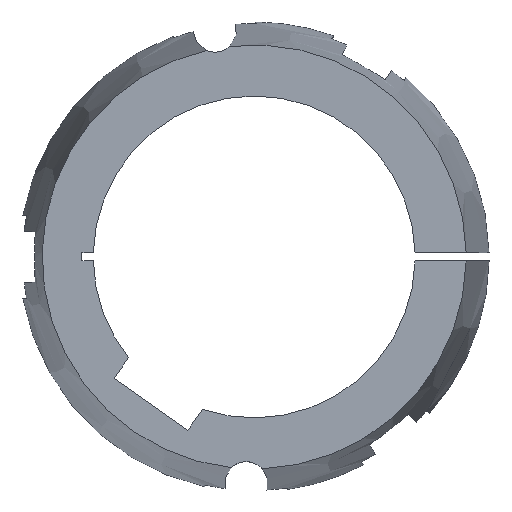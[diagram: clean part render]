
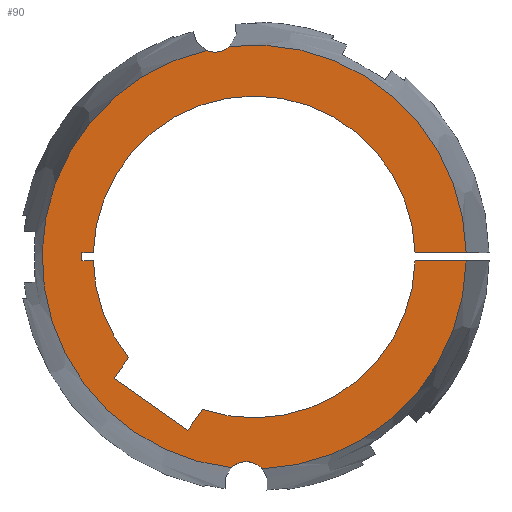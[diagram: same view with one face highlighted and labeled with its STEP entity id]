
A CAD part, left-side view. The second image highlights one B-rep face of the part: STEP entity #90.
In plain terms, the highlighted planar face has unit normal (-1, 0, 0).
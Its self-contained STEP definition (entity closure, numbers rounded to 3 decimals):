
#90 = ADVANCED_FACE( '', ( #140 ), #141, .F. );
#140 = FACE_OUTER_BOUND( '', #208, .T. );
#141 = PLANE( '', #209 );
#208 = EDGE_LOOP( '', ( #369, #370, #371, #372, #373, #374, #375, #376, #377, #378, #379, #380, #381, #382, #383, #384 ) );
#209 = AXIS2_PLACEMENT_3D( '', #385, #386, #387 );
#369 = ORIENTED_EDGE( '', *, *, #548, .F. );
#370 = ORIENTED_EDGE( '', *, *, #601, .F. );
#371 = ORIENTED_EDGE( '', *, *, #570, .T. );
#372 = ORIENTED_EDGE( '', *, *, #583, .T. );
#373 = ORIENTED_EDGE( '', *, *, #581, .T. );
#374 = ORIENTED_EDGE( '', *, *, #578, .T. );
#375 = ORIENTED_EDGE( '', *, *, #587, .T. );
#376 = ORIENTED_EDGE( '', *, *, #602, .T. );
#377 = ORIENTED_EDGE( '', *, *, #603, .T. );
#378 = ORIENTED_EDGE( '', *, *, #604, .T. );
#379 = ORIENTED_EDGE( '', *, *, #605, .T. );
#380 = ORIENTED_EDGE( '', *, *, #606, .T. );
#381 = ORIENTED_EDGE( '', *, *, #572, .T. );
#382 = ORIENTED_EDGE( '', *, *, #607, .F. );
#383 = ORIENTED_EDGE( '', *, *, #551, .F. );
#384 = ORIENTED_EDGE( '', *, *, #608, .F. );
#385 = CARTESIAN_POINT( '', ( -102., 0., 0. ) );
#386 = DIRECTION( '', ( 1., 0., 0. ) );
#387 = DIRECTION( '', ( 0., 1., 0. ) );
#548 = EDGE_CURVE( '', #649, #651, #652, .F. );
#551 = EDGE_CURVE( '', #655, #657, #658, .F. );
#570 = EDGE_CURVE( '', #693, #691, #694, .T. );
#572 = EDGE_CURVE( '', #696, #697, #698, .T. );
#578 = EDGE_CURVE( '', #709, #707, #710, .T. );
#581 = EDGE_CURVE( '', #714, #709, #715, .T. );
#583 = EDGE_CURVE( '', #691, #714, #717, .T. );
#587 = EDGE_CURVE( '', #707, #721, #723, .T. );
#601 = EDGE_CURVE( '', #693, #649, #745, .T. );
#602 = EDGE_CURVE( '', #721, #746, #747, .T. );
#603 = EDGE_CURVE( '', #746, #748, #749, .T. );
#604 = EDGE_CURVE( '', #748, #750, #751, .T. );
#605 = EDGE_CURVE( '', #750, #752, #753, .T. );
#606 = EDGE_CURVE( '', #752, #696, #754, .T. );
#607 = EDGE_CURVE( '', #657, #697, #755, .T. );
#608 = EDGE_CURVE( '', #651, #655, #756, .T. );
#649 = VERTEX_POINT( '', #815 );
#651 = VERTEX_POINT( '', #828 );
#652 = CIRCLE( '', #829, 6.75 );
#655 = VERTEX_POINT( '', #843 );
#657 = VERTEX_POINT( '', #856 );
#658 = CIRCLE( '', #857, 6.75 );
#691 = VERTEX_POINT( '', #924 );
#693 = VERTEX_POINT( '', #927 );
#694 = LINE( '', #928, #929 );
#696 = VERTEX_POINT( '', #937 );
#697 = VERTEX_POINT( '', #938 );
#698 = LINE( '', #939, #940 );
#707 = VERTEX_POINT( '', #958 );
#709 = VERTEX_POINT( '', #961 );
#710 = LINE( '', #962, #963 );
#714 = VERTEX_POINT( '', #969 );
#715 = LINE( '', #970, #971 );
#717 = CIRCLE( '', #974, 50. );
#721 = VERTEX_POINT( '', #979 );
#723 = LINE( '', #982, #983 );
#745 = CIRCLE( '', #1008, 65.867 );
#746 = VERTEX_POINT( '', #1009 );
#747 = CIRCLE( '', #1010, 50. );
#748 = VERTEX_POINT( '', #1011 );
#749 = LINE( '', #1012, #1013 );
#750 = VERTEX_POINT( '', #1014 );
#751 = LINE( '', #1015, #1016 );
#752 = VERTEX_POINT( '', #1017 );
#753 = LINE( '', #1018, #1019 );
#754 = CIRCLE( '', #1020, 50. );
#755 = CIRCLE( '', #1021, 65.867 );
#756 = CIRCLE( '', #1022, 65.867 );
#815 = CARTESIAN_POINT( '', ( -102., -2.538, -65.819 ) );
#828 = CARTESIAN_POINT( '', ( -102., 7.121, -65.481 ) );
#829 = AXIS2_PLACEMENT_3D( '', #1188, #1189, #1190 );
#843 = CARTESIAN_POINT( '', ( -102., 14.891, 64.162 ) );
#856 = CARTESIAN_POINT( '', ( -102., 7.611, 65.426 ) );
#857 = AXIS2_PLACEMENT_3D( '', #1191, #1192, #1193 );
#924 = CARTESIAN_POINT( '', ( -102., -49.984, -1.25 ) );
#927 = CARTESIAN_POINT( '', ( -102., -65.856, -1.25 ) );
#928 = CARTESIAN_POINT( '', ( -102., -73., -1.25 ) );
#929 = VECTOR( '', #1223, 1000. );
#937 = CARTESIAN_POINT( '', ( -102., -49.984, 1.25 ) );
#938 = CARTESIAN_POINT( '', ( -102., -65.856, 1.25 ) );
#939 = CARTESIAN_POINT( '', ( -102., 0., 1.25 ) );
#940 = VECTOR( '', #1224, 1000. );
#958 = CARTESIAN_POINT( '', ( -102., 43.531, -37.761 ) );
#961 = CARTESIAN_POINT( '', ( -102., 20.595, -53.821 ) );
#962 = CARTESIAN_POINT( '', ( -102., 20.595, -53.821 ) );
#963 = VECTOR( '', #1229, 1000. );
#969 = CARTESIAN_POINT( '', ( -102., 16.064, -47.349 ) );
#970 = CARTESIAN_POINT( '', ( -102., 16.064, -47.349 ) );
#971 = VECTOR( '', #1232, 1000. );
#974 = AXIS2_PLACEMENT_3D( '', #1234, #1235, #1236 );
#979 = CARTESIAN_POINT( '', ( -102., 39., -31.289 ) );
#982 = CARTESIAN_POINT( '', ( -102., 43.531, -37.761 ) );
#983 = VECTOR( '', #1242, 1000. );
#1008 = AXIS2_PLACEMENT_3D( '', #1276, #1277, #1278 );
#1009 = CARTESIAN_POINT( '', ( -102., 49.984, -1.25 ) );
#1010 = AXIS2_PLACEMENT_3D( '', #1279, #1280, #1281 );
#1011 = CARTESIAN_POINT( '', ( -102., 53.5, -1.25 ) );
#1012 = CARTESIAN_POINT( '', ( -102., 0., -1.25 ) );
#1013 = VECTOR( '', #1282, 1000. );
#1014 = CARTESIAN_POINT( '', ( -102., 53.5, 1.25 ) );
#1015 = CARTESIAN_POINT( '', ( -102., 53.5, -1.25 ) );
#1016 = VECTOR( '', #1283, 1000. );
#1017 = CARTESIAN_POINT( '', ( -102., 49.984, 1.25 ) );
#1018 = CARTESIAN_POINT( '', ( -102., 53.5, 1.25 ) );
#1019 = VECTOR( '', #1284, 1000. );
#1020 = AXIS2_PLACEMENT_3D( '', #1285, #1286, #1287 );
#1021 = AXIS2_PLACEMENT_3D( '', #1288, #1289, #1290 );
#1022 = AXIS2_PLACEMENT_3D( '', #1291, #1292, #1293 );
#1188 = CARTESIAN_POINT( '', ( -102., 2.456, -70.36 ) );
#1189 = DIRECTION( '', ( 1., 0., 0. ) );
#1190 = DIRECTION( '', ( 0., 1., 0. ) );
#1191 = CARTESIAN_POINT( '', ( -102., 12.218, 70.36 ) );
#1192 = DIRECTION( '', ( 1., 0., 0. ) );
#1193 = DIRECTION( '', ( 0., 1., 0. ) );
#1223 = DIRECTION( '', ( 0., 1., 0. ) );
#1224 = DIRECTION( '', ( 0., -1., 0. ) );
#1229 = DIRECTION( '', ( 0., 0.819, 0.574 ) );
#1232 = DIRECTION( '', ( 0., 0.574, -0.819 ) );
#1234 = CARTESIAN_POINT( '', ( -102., 0., 0. ) );
#1235 = DIRECTION( '', ( 1., 0., 0. ) );
#1236 = DIRECTION( '', ( 0., 0., -1. ) );
#1242 = DIRECTION( '', ( 0., -0.574, 0.819 ) );
#1276 = CARTESIAN_POINT( '', ( -102., 0., 0. ) );
#1277 = DIRECTION( '', ( 1., 0., 0. ) );
#1278 = DIRECTION( '', ( 0., 1., 0. ) );
#1279 = CARTESIAN_POINT( '', ( -102., 0., 0. ) );
#1280 = DIRECTION( '', ( 1., 0., 0. ) );
#1281 = DIRECTION( '', ( 0., 0., -1. ) );
#1282 = DIRECTION( '', ( 0., 1., 0. ) );
#1283 = DIRECTION( '', ( 0., 0., 1. ) );
#1284 = DIRECTION( '', ( 0., -1., 0. ) );
#1285 = CARTESIAN_POINT( '', ( -102., 0., 0. ) );
#1286 = DIRECTION( '', ( 1., 0., 0. ) );
#1287 = DIRECTION( '', ( 0., 0., -1. ) );
#1288 = CARTESIAN_POINT( '', ( -102., 0., 0. ) );
#1289 = DIRECTION( '', ( 1., 0., 0. ) );
#1290 = DIRECTION( '', ( 0., 1., 0. ) );
#1291 = CARTESIAN_POINT( '', ( -102., 0., 0. ) );
#1292 = DIRECTION( '', ( 1., 0., 0. ) );
#1293 = DIRECTION( '', ( 0., 1., 0. ) );
